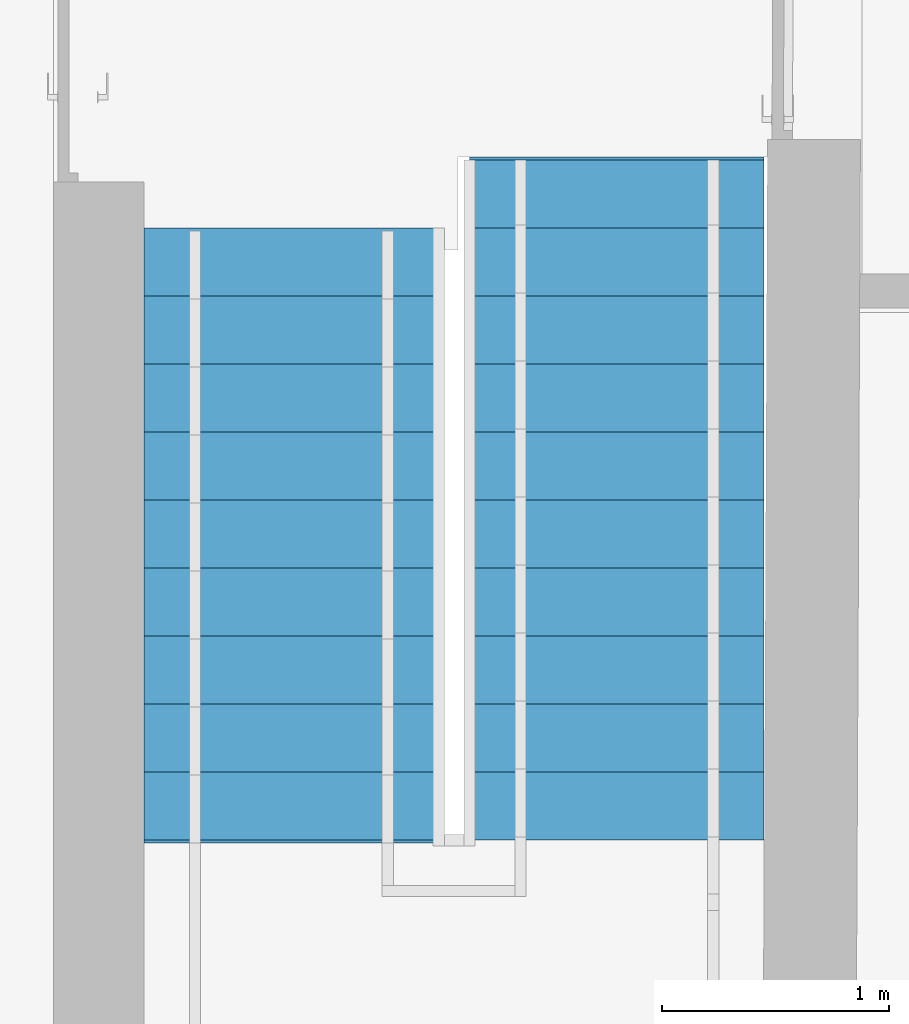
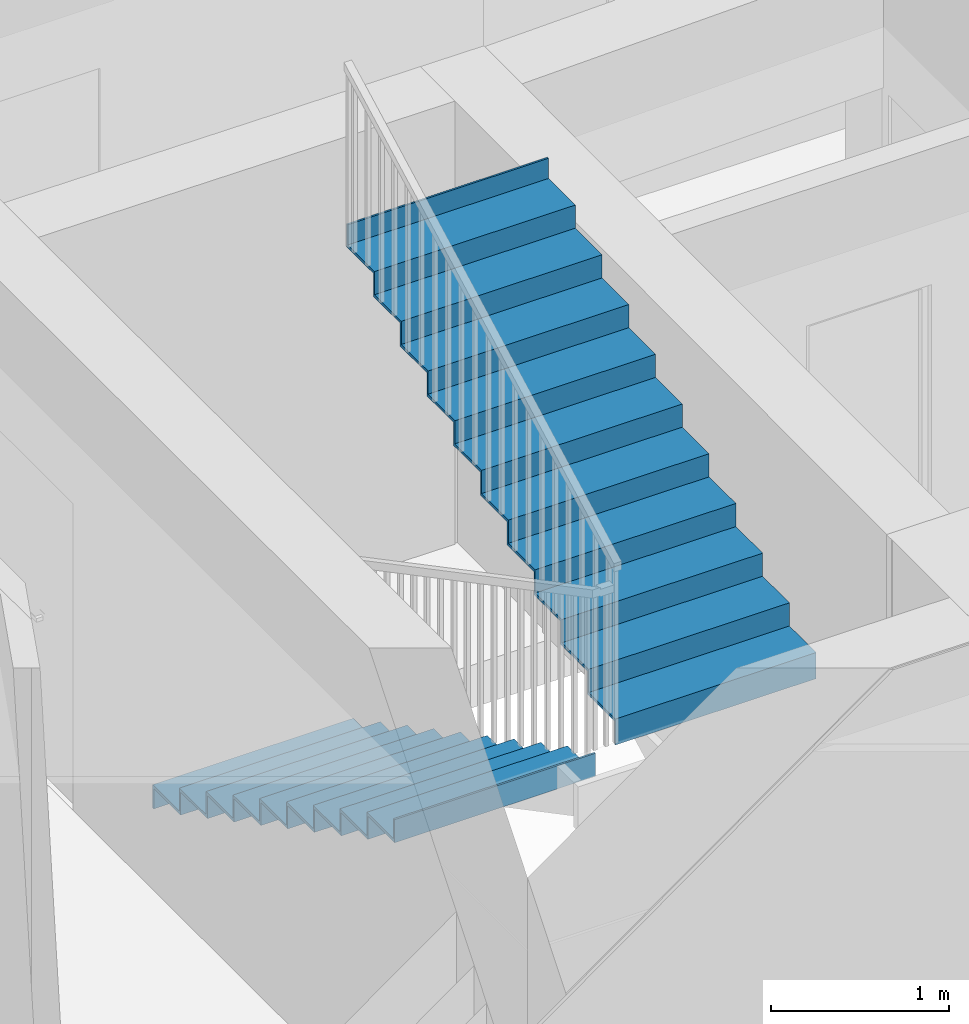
# One storey, part 13 of 25: 2 stair flights, 1 element without a shape of its own.
"""IFC2X3 building model written with IfcOpenShell, lengths in millimetres."""

from ifc_helpers import new_model, entity, si_unit, converted_unit, derived_unit, direction, frame, frame_2d, origin, origin_2d_with_axis, place, context, subcontext, project, spatial, rectangle, extrude, material, element, aggregate, save


model = new_model("IFC2X3")

# Units and contexts
model_context = context("Model", 3, precision=0.01, world=origin(), true_north=direction((6.12303176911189e-17, 1.0)))
context_of_model = context(None, 3, precision=0.01, world=origin(), true_north=direction((6.12303176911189e-17, 1.0)))
body_context = subcontext(model_context, "Body", "Model", "MODEL_VIEW")
ifc_project = project(units=[si_unit("LENGTHUNIT", "METRE", prefix="MILLI"), si_unit("AREAUNIT", "SQUARE_METRE"), si_unit("VOLUMEUNIT", "CUBIC_METRE"), converted_unit("PLANEANGLEUNIT", "DEGREE", entity("IfcRatioMeasure", 0.0174532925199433), si_unit("PLANEANGLEUNIT", "RADIAN"), dimensions=[0, 0, 0, 0, 0, 0, 0]), si_unit("MASSUNIT", "GRAM", prefix="KILO"), derived_unit("MASSDENSITYUNIT", [(si_unit("MASSUNIT", "GRAM", prefix="KILO"), 1), (si_unit("LENGTHUNIT", "METRE"), -3)]), si_unit("TIMEUNIT", "SECOND"), si_unit("FREQUENCYUNIT", "HERTZ"), si_unit("THERMODYNAMICTEMPERATUREUNIT", "DEGREE_CELSIUS"), derived_unit("THERMALTRANSMITTANCEUNIT", [(si_unit("MASSUNIT", "GRAM", prefix="KILO"), 1), (si_unit("THERMODYNAMICTEMPERATUREUNIT", "KELVIN"), -1), (si_unit("TIMEUNIT", "SECOND"), -3)]), derived_unit("VOLUMETRICFLOWRATEUNIT", [(si_unit("LENGTHUNIT", "METRE"), 3), (si_unit("TIMEUNIT", "SECOND"), -1)]), si_unit("ELECTRICCURRENTUNIT", "AMPERE"), si_unit("ELECTRICVOLTAGEUNIT", "VOLT"), si_unit("POWERUNIT", "WATT"), si_unit("FORCEUNIT", "NEWTON", prefix="KILO"), si_unit("ILLUMINANCEUNIT", "LUX"), si_unit("LUMINOUSFLUXUNIT", "LUMEN"), si_unit("LUMINOUSINTENSITYUNIT", "CANDELA"), derived_unit("USERDEFINED", [(si_unit("MASSUNIT", "GRAM", prefix="KILO"), -1), (si_unit("LENGTHUNIT", "METRE"), -2), (si_unit("TIMEUNIT", "SECOND"), 3), (si_unit("LUMINOUSFLUXUNIT", "LUMEN"), 1)]), derived_unit("LINEARVELOCITYUNIT", [(si_unit("LENGTHUNIT", "METRE"), 1), (si_unit("TIMEUNIT", "SECOND"), -1)]), si_unit("PRESSUREUNIT", "PASCAL"), derived_unit("USERDEFINED", [(si_unit("LENGTHUNIT", "METRE"), -2), (si_unit("MASSUNIT", "GRAM", prefix="KILO"), 1), (si_unit("TIMEUNIT", "SECOND"), -2)])], contexts=[model_context, context_of_model])

# Site, building, storey
site_placement = place(None, frame((121442.264707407, 135347.995453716, -1800.0)))
site = spatial("IfcSite", under=ifc_project, at=site_placement, Name="Surface", CompositionType="ELEMENT")
building_placement = place(site_placement, origin())
building = spatial("IfcBuilding", under=site, at=building_placement, CompositionType="ELEMENT")
storey_placement = place(building_placement, frame((0.0, 0.0, 1800.0)))
storey = spatial("IfcBuildingStorey", under=building, at=storey_placement, Name="1 korrus", CompositionType="ELEMENT", Elevation=1800.00000000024)

# Stair, stair flights
stair_placement = place(storey_placement, origin())
stair = element("IfcStair", 1, at=stair_placement, inside=storey, Name="Assembled Stair:Stair", ObjectType="Assembled Stair:190mm max riser 250mm kesktrepp", ShapeType="NOTDEFINED")
ifc_material = material(Name="Metalli - teräs, sinkitty")
stair_flight_1_placement = place(stair_placement, origin())
stair_flight_1 = element("IfcStairFlight", 2, at=stair_flight_1_placement, material=ifc_material, Name="Assembled Stair:Stair:5508512 Run 1", ObjectType="Assembled Stair:190mm max riser 250mm kesktrepp", NumberOfRiser=10, NumberOfTreads=9, RiserHeight=0.519466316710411, TreadLength=0.984251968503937, context=body_context, shape_type="SweptSolid", body=[
    extrude(rectangle(XDim=1300.00000000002, YDim=12.5000000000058, at=origin_2d_with_axis()), frame((-108643.017140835, -122910.481676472, 0.0)), (0.0, 0.0, 1.0), 138.333333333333),
    extrude(rectangle(XDim=300.000000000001, YDim=1300.00000000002, at=origin_2d_with_axis()), frame((-108643.017140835, -123054.231676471, 138.333333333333), z_axis=(0.0, 0.0, 1.0), x_axis=(0.0, 1.0, 0.0)), (0.0, 0.0, 1.0), 20.0000000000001),
    extrude(rectangle(XDim=1300.00000000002, YDim=12.5000000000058, at=origin_2d_with_axis()), frame((-108643.017140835, -123210.481676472, 138.333333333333)), (0.0, 0.0, 1.0), 158.333333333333),
    extrude(rectangle(XDim=300.000000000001, YDim=1300.00000000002, at=origin_2d_with_axis()), frame((-108643.017140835, -123354.231676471, 296.666666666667), z_axis=(0.0, 0.0, 1.0), x_axis=(0.0, 1.0, 0.0)), (0.0, 0.0, 1.0), 20.0000000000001),
    extrude(rectangle(XDim=1300.00000000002, YDim=12.5000000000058, at=origin_2d_with_axis()), frame((-108643.017140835, -123510.481676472, 296.666666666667)), (0.0, 0.0, 1.0), 158.333333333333),
    extrude(rectangle(XDim=300.000000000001, YDim=1300.00000000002, at=origin_2d_with_axis()), frame((-108643.017140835, -123654.231676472, 455.0), z_axis=(0.0, 0.0, 1.0), x_axis=(0.0, 1.0, 0.0)), (0.0, 0.0, 1.0), 20.0000000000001),
    extrude(rectangle(XDim=1300.00000000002, YDim=12.5000000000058, at=origin_2d_with_axis()), frame((-108643.017140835, -123810.481676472, 455.0)), (0.0, 0.0, 1.0), 158.333333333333),
    extrude(rectangle(XDim=300.000000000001, YDim=1300.00000000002, at=origin_2d_with_axis()), frame((-108643.017140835, -123954.231676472, 613.333333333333), z_axis=(0.0, 0.0, 1.0), x_axis=(0.0, 1.0, 0.0)), (0.0, 0.0, 1.0), 20.0000000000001),
    extrude(rectangle(XDim=1300.00000000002, YDim=12.5000000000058, at=origin_2d_with_axis()), frame((-108643.017140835, -124110.481676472, 613.333333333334)), (0.0, 0.0, 1.0), 158.333333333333),
    extrude(rectangle(XDim=300.000000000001, YDim=1300.00000000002, at=origin_2d_with_axis()), frame((-108643.017140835, -124254.231676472, 771.666666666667), z_axis=(0.0, 0.0, 1.0), x_axis=(0.0, 1.0, 0.0)), (0.0, 0.0, 1.0), 19.9999999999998),
    extrude(rectangle(XDim=1300.00000000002, YDim=12.5000000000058, at=origin_2d_with_axis()), frame((-108643.017140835, -124410.481676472, 771.666666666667)), (0.0, 0.0, 1.0), 158.333333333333),
    extrude(rectangle(XDim=300.000000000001, YDim=1300.00000000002, at=origin_2d_with_axis()), frame((-108643.017140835, -124554.231676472, 930.0), z_axis=(0.0, 0.0, 1.0), x_axis=(0.0, 1.0, 0.0)), (0.0, 0.0, 1.0), 19.9999999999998),
    extrude(rectangle(XDim=1300.00000000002, YDim=12.5000000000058, at=origin_2d_with_axis()), frame((-108643.017140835, -124710.481676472, 930.0)), (0.0, 0.0, 1.0), 158.333333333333),
    extrude(rectangle(XDim=300.000000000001, YDim=1300.00000000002, at=origin_2d_with_axis()), frame((-108643.017140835, -124854.231676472, 1088.33333333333), z_axis=(0.0, 0.0, 1.0), x_axis=(0.0, 1.0, 0.0)), (0.0, 0.0, 1.0), 19.9999999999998),
    extrude(rectangle(XDim=1300.00000000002, YDim=12.5000000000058, at=origin_2d_with_axis()), frame((-108643.017140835, -125010.481676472, 1088.33333333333)), (0.0, 0.0, 1.0), 158.333333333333),
    extrude(rectangle(XDim=300.000000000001, YDim=1300.00000000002, at=origin_2d_with_axis()), frame((-108643.017140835, -125154.231676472, 1246.66666666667), z_axis=(0.0, 0.0, 1.0), x_axis=(0.0, 1.0, 0.0)), (0.0, 0.0, 1.0), 19.9999999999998),
    extrude(rectangle(XDim=1300.00000000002, YDim=12.5000000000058, at=origin_2d_with_axis()), frame((-108643.017140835, -125310.481676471, 1246.66666666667)), (0.0, 0.0, 1.0), 158.333333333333),
    extrude(rectangle(XDim=1300.00000000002, YDim=12.5000000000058, at=origin_2d_with_axis()), frame((-108643.017140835, -125610.481676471, 1405.0)), (0.0, 0.0, 1.0), 158.333333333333),
    extrude(rectangle(XDim=300.000000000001, YDim=1300.00000000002, at=origin_2d_with_axis()), frame((-108643.017140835, -125454.231676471, 1405.0), z_axis=(0.0, 0.0, 1.0), x_axis=(0.0, 1.0, 0.0)), (0.0, 0.0, 1.0), 19.9999999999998),
])
stair_flight_2_placement = place(stair_placement, origin())
stair_flight_2 = element("IfcStairFlight", 3, at=stair_flight_2_placement, material=ifc_material, Name="Assembled Stair:Stair:5508512 Run 2", ObjectType="Assembled Stair:190mm max riser 250mm kesktrepp", NumberOfRiser=11, NumberOfTreads=10, RiserHeight=0.519466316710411, TreadLength=0.984251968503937, context=body_context, shape_type="SweptSolid", body=[
    extrude(rectangle(XDim=1300.00000000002, YDim=12.5000000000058, at=origin_2d_with_axis()), frame((-107207.362495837, -125597.981676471, 1563.33333333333), z_axis=(0.0, 0.0, 1.0), x_axis=(-1.0, 0.0, 0.0)), (0.0, 0.0, 1.0), 158.333333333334),
    extrude(rectangle(XDim=300.000000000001, YDim=1300.00000000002, at=origin_2d_with_axis()), frame((-107207.362495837, -125454.231676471, 1721.66666666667), z_axis=(0.0, 0.0, 1.0), x_axis=(0.0, -1.0, 0.0)), (0.0, 0.0, 1.0), 19.9999999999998),
    extrude(rectangle(XDim=1300.00000000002, YDim=12.5000000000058, at=origin_2d_with_axis()), frame((-107207.362495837, -125297.981676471, 1721.66666666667), z_axis=(0.0, 0.0, 1.0), x_axis=(-1.0, 0.0, 0.0)), (0.0, 0.0, 1.0), 158.333333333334),
    extrude(rectangle(XDim=300.000000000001, YDim=1300.00000000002, at=origin_2d_with_axis()), frame((-107207.362495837, -125154.231676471, 1880.0), z_axis=(0.0, 0.0, 1.0), x_axis=(0.0, -1.0, 0.0)), (0.0, 0.0, 1.0), 19.9999999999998),
    extrude(rectangle(XDim=1300.00000000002, YDim=12.5000000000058, at=origin_2d_with_axis()), frame((-107207.362495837, -124997.981676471, 1880.0), z_axis=(0.0, 0.0, 1.0), x_axis=(-1.0, 0.0, 0.0)), (0.0, 0.0, 1.0), 158.333333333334),
    extrude(rectangle(XDim=300.000000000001, YDim=1300.00000000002, at=origin_2d_with_axis()), frame((-107207.362495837, -124854.231676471, 2038.33333333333), z_axis=(0.0, 0.0, 1.0), x_axis=(0.0, -1.0, 0.0)), (0.0, 0.0, 1.0), 19.9999999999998),
    extrude(rectangle(XDim=1300.00000000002, YDim=12.5000000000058, at=origin_2d_with_axis()), frame((-107207.362495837, -124697.981676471, 2038.33333333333), z_axis=(0.0, 0.0, 1.0), x_axis=(-1.0, 0.0, 0.0)), (0.0, 0.0, 1.0), 158.333333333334),
    extrude(rectangle(XDim=300.000000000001, YDim=1300.00000000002, at=origin_2d_with_axis()), frame((-107207.362495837, -124554.231676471, 2196.66666666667), z_axis=(0.0, 0.0, 1.0), x_axis=(0.0, -1.0, 0.0)), (0.0, 0.0, 1.0), 19.9999999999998),
    extrude(rectangle(XDim=1300.00000000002, YDim=12.5000000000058, at=frame_2d((-1.73372427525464e-11, 0.0), x_axis=(1.0, 0.0))), frame((-107207.362495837, -124397.981676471, 2196.66666666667), z_axis=(0.0, 0.0, 1.0), x_axis=(-1.0, 0.0, 0.0)), (0.0, 0.0, 1.0), 158.333333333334),
    extrude(rectangle(XDim=300.000000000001, YDim=1300.00000000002, at=frame_2d((0.0, 1.73372427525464e-11), x_axis=(1.0, 0.0))), frame((-107207.362495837, -124254.231676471, 2355.0), z_axis=(0.0, 0.0, 1.0), x_axis=(0.0, -1.0, 0.0)), (0.0, 0.0, 1.0), 19.9999999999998),
    extrude(rectangle(XDim=1300.00000000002, YDim=12.5000000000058, at=frame_2d((-1.73372427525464e-11, 0.0), x_axis=(1.0, 0.0))), frame((-107207.362495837, -124097.981676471, 2355.0), z_axis=(0.0, 0.0, 1.0), x_axis=(-1.0, 0.0, 0.0)), (0.0, 0.0, 1.0), 158.333333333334),
    extrude(rectangle(XDim=300.000000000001, YDim=1300.00000000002, at=frame_2d((0.0, 1.73372427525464e-11), x_axis=(1.0, 0.0))), frame((-107207.362495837, -123954.231676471, 2513.33333333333), z_axis=(0.0, 0.0, 1.0), x_axis=(0.0, -1.0, 0.0)), (0.0, 0.0, 1.0), 19.9999999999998),
    extrude(rectangle(XDim=1300.00000000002, YDim=12.5000000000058, at=frame_2d((-1.73372427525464e-11, 0.0), x_axis=(1.0, 0.0))), frame((-107207.362495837, -123797.981676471, 2513.33333333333), z_axis=(0.0, 0.0, 1.0), x_axis=(-1.0, 0.0, 0.0)), (0.0, 0.0, 1.0), 158.333333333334),
    extrude(rectangle(XDim=300.000000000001, YDim=1300.00000000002, at=frame_2d((0.0, 1.73372427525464e-11), x_axis=(1.0, 0.0))), frame((-107207.362495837, -123654.231676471, 2671.66666666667), z_axis=(0.0, 0.0, 1.0), x_axis=(0.0, -1.0, 0.0)), (0.0, 0.0, 1.0), 19.9999999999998),
    extrude(rectangle(XDim=1300.00000000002, YDim=12.5000000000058, at=frame_2d((-1.73372427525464e-11, 0.0), x_axis=(1.0, 0.0))), frame((-107207.362495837, -123497.981676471, 2671.66666666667), z_axis=(0.0, 0.0, 1.0), x_axis=(-1.0, 0.0, 0.0)), (0.0, 0.0, 1.0), 158.333333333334),
    extrude(rectangle(XDim=300.000000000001, YDim=1300.00000000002, at=frame_2d((0.0, 1.73372427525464e-11), x_axis=(1.0, 0.0))), frame((-107207.362495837, -123354.231676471, 2830.0), z_axis=(0.0, 0.0, 1.0), x_axis=(0.0, -1.0, 0.0)), (0.0, 0.0, 1.0), 19.9999999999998),
    extrude(rectangle(XDim=1300.00000000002, YDim=12.5000000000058, at=frame_2d((-1.73372427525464e-11, 0.0), x_axis=(1.0, 0.0))), frame((-107207.362495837, -123197.981676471, 2830.0), z_axis=(0.0, 0.0, 1.0), x_axis=(-1.0, 0.0, 0.0)), (0.0, 0.0, 1.0), 158.333333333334),
    extrude(rectangle(XDim=300.000000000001, YDim=1300.00000000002, at=frame_2d((0.0, 1.73372427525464e-11), x_axis=(1.0, 0.0))), frame((-107207.362495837, -123054.231676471, 2988.33333333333), z_axis=(0.0, 0.0, 1.0), x_axis=(0.0, -1.0, 0.0)), (0.0, 0.0, 1.0), 19.9999999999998),
    extrude(rectangle(XDim=1300.00000000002, YDim=12.5000000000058, at=frame_2d((-1.73372427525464e-11, 0.0), x_axis=(1.0, 0.0))), frame((-107207.362495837, -122897.981676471, 2988.33333333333), z_axis=(0.0, 0.0, 1.0), x_axis=(-1.0, 0.0, 0.0)), (0.0, 0.0, 1.0), 158.333333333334),
    extrude(rectangle(XDim=1300.00000000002, YDim=12.5000000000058, at=frame_2d((-1.73372427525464e-11, 0.0), x_axis=(1.0, 0.0))), frame((-107207.362495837, -122597.981676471, 3146.66666666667), z_axis=(0.0, 0.0, 1.0), x_axis=(-1.0, 0.0, 0.0)), (0.0, 0.0, 1.0), 158.333333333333),
    extrude(rectangle(XDim=300.000000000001, YDim=1300.00000000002, at=frame_2d((0.0, 1.73372427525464e-11), x_axis=(1.0, 0.0))), frame((-107207.362495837, -122754.231676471, 3146.66666666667), z_axis=(0.0, 0.0, 1.0), x_axis=(0.0, -1.0, 0.0)), (0.0, 0.0, 1.0), 19.9999999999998),
])
aggregate(stair, [stair_flight_1, stair_flight_2])

save(model, "model.ifc")
